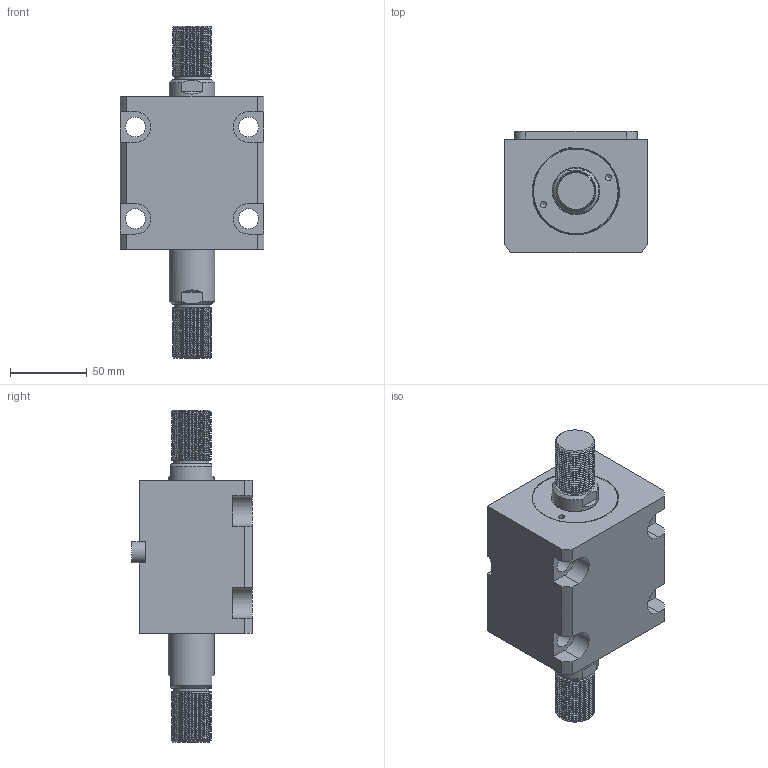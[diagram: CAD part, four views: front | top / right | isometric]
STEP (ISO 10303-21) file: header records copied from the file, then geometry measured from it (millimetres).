
FILE_DESCRIPTION(/* description */ (''),/* implementation_level */ '2;1');
FILE_NAME(/* name */ 'CHTB-LWM50-25W.stp',/* time_stamp */ '2022-04-29T18:11:08+08:00',/* author */ (''),/* organization */ (''),/* preprocessor_version */ 'ST-DEVELOPER v16.7',/* originating_system */ 'SIEMENS PLM Software NX 12.0',/* authorisation */ '');
FILE_SCHEMA (('AUTOMOTIVE_DESIGN { 1 0 10303 214 3 1 1 1 }'));
Length unit declared in the file: millimetre
Products named in the file (1): CHTB-LWM50-25W
Bounding box: 94 x 79 x 217 mm (x, y, z)
Volume: 678523.4 mm3; surface area: 116759.4 mm2
Topology: 3 solids, 3 shells, 497 faces, 1550 edges, 1101 vertices
Faces by surface type: plane 335, extrusion 86, cylinder 44, bspline 12, torus 11, cone 9
Full cylindrical faces by diameter (mm): 4 x2, 5 x2, 12 x2, 13 x4, 23 x2, 30 x4, 39 x1, 46 x1, 50 x5, 59 x1
Entity records: 29100 total; most frequent: CARTESIAN_POINT 13824, ORIENTED_EDGE 2984, DIRECTION 2043, EDGE_CURVE 1492, VERTEX_POINT 1089, VECTOR 1033, LINE 947, EDGE_LOOP 599
